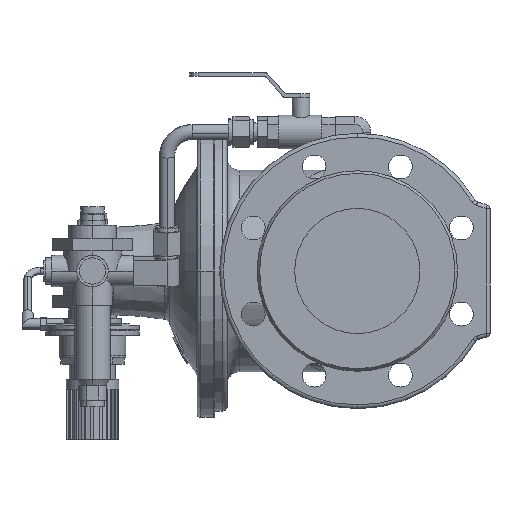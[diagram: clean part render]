
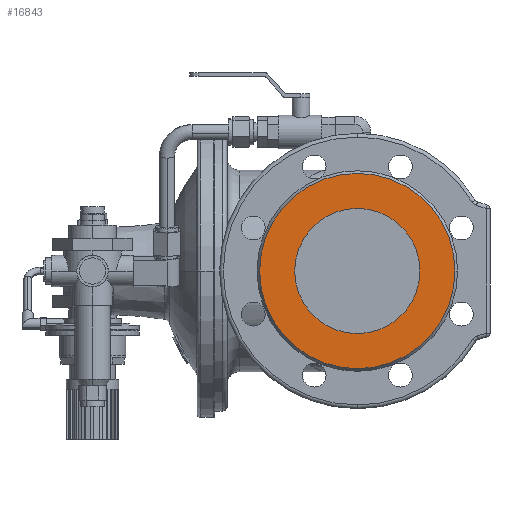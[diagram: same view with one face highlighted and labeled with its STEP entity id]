
A CAD part, left-side view. The second image highlights one B-rep face of the part: STEP entity #16843.
In plain terms, the highlighted planar face has unit normal (-1, 0, 0).
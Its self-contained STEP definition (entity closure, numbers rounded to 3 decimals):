
#2251 = CIRCLE ( 'NONE', #21144, 78. ) ;
#2548 = DIRECTION ( 'NONE',  ( 0., 1., 0. ) ) ;
#2888 = DIRECTION ( 'NONE',  ( 1., 0., 0. ) ) ;
#3266 = CARTESIAN_POINT ( 'NONE',  ( -175., 78., 0. ) ) ;
#3741 = VERTEX_POINT ( 'NONE', #12044 ) ;
#5231 = EDGE_CURVE ( 'Defeatured_0_41+Defeatured_0_40+Defeatured_0_40+Defeatured_0_40', #6522, #26155, #21591, .T. ) ;
#5347 = EDGE_CURVE ( 'Defeatured_0_40+Defeatured_0_835+Defeatured_0_835+Defeatured_0_835', #3741, #30320, #11865, .T. ) ;
#6101 = CARTESIAN_POINT ( 'NONE',  ( -175., 0., 0. ) ) ;
#6168 = FACE_BOUND ( 'NONE', #32430, .T. ) ;
#6522 = VERTEX_POINT ( 'NONE', #3266 ) ;
#8292 = CARTESIAN_POINT ( 'NONE',  ( -175., 0., 0. ) ) ;
#11865 = CIRCLE ( 'NONE', #31827, 50. ) ;
#12044 = CARTESIAN_POINT ( 'NONE',  ( -175., 0., 50. ) ) ;
#12688 = CARTESIAN_POINT ( 'NONE',  ( -175., 0., 0. ) ) ;
#13912 = EDGE_LOOP ( 'NONE', ( #31919, #25042 ) ) ;
#14042 = DIRECTION ( 'NONE',  ( 1., 0., 0. ) ) ;
#15456 = CARTESIAN_POINT ( 'NONE',  ( -175., 0., 0. ) ) ;
#15908 = CIRCLE ( 'NONE', #16990, 50. ) ;
#16476 = PLANE ( 'NONE',  #32664 ) ;
#16843 = ADVANCED_FACE ( 'Defeatured_0_40', ( #6168, #24092 ), #16476, .T. ) ;
#16964 = ORIENTED_EDGE ( 'NONE', *, *, #22854, .T. ) ;
#16990 = AXIS2_PLACEMENT_3D ( 'NONE', #12688, #22835, #2548 ) ;
#17815 = DIRECTION ( 'NONE',  ( 0., 1., 0. ) ) ;
#18234 = DIRECTION ( 'NONE',  ( -1., 0., 0. ) ) ;
#18614 = CARTESIAN_POINT ( 'NONE',  ( -175., 0., -50. ) ) ;
#19658 = EDGE_CURVE ( 'Defeatured_0_41+Defeatured_0_40+Defeatured_0_40+Defeatured_0_40', #26155, #6522, #2251, .T. ) ;
#20914 = CARTESIAN_POINT ( 'NONE',  ( -175., -78., 0. ) ) ;
#21144 = AXIS2_PLACEMENT_3D ( 'NONE', #8292, #2888, #23345 ) ;
#21591 = CIRCLE ( 'NONE', #31301, 78. ) ;
#21717 = DIRECTION ( 'NONE',  ( 0., -1., 0. ) ) ;
#22732 = DIRECTION ( 'NONE',  ( 1., 0., 0. ) ) ;
#22835 = DIRECTION ( 'NONE',  ( 1., 0., 0. ) ) ;
#22854 = EDGE_CURVE ( 'Defeatured_0_40+Defeatured_0_835+Defeatured_0_835+Defeatured_0_835', #30320, #3741, #15908, .T. ) ;
#23345 = DIRECTION ( 'NONE',  ( 0., 1., 0. ) ) ;
#23666 = ORIENTED_EDGE ( 'NONE', *, *, #5347, .T. ) ;
#24092 = FACE_OUTER_BOUND ( 'NONE', #13912, .T. ) ;
#24191 = DIRECTION ( 'NONE',  ( 0., 1., 0. ) ) ;
#25042 = ORIENTED_EDGE ( 'NONE', *, *, #19658, .F. ) ;
#25845 = CARTESIAN_POINT ( 'NONE',  ( -175., 50., 0. ) ) ;
#26155 = VERTEX_POINT ( 'NONE', #20914 ) ;
#30320 = VERTEX_POINT ( 'NONE', #18614 ) ;
#31301 = AXIS2_PLACEMENT_3D ( 'NONE', #15456, #22732, #17815 ) ;
#31827 = AXIS2_PLACEMENT_3D ( 'NONE', #6101, #14042, #24191 ) ;
#31919 = ORIENTED_EDGE ( 'NONE', *, *, #5231, .F. ) ;
#32430 = EDGE_LOOP ( 'NONE', ( #23666, #16964 ) ) ;
#32664 = AXIS2_PLACEMENT_3D ( 'NONE', #25845, #18234, #21717 ) ;
